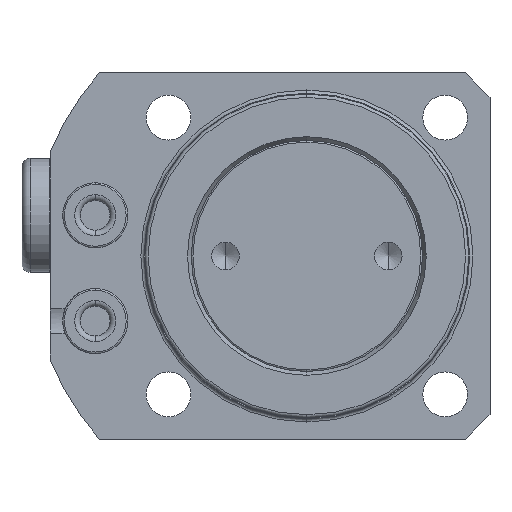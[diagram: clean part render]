
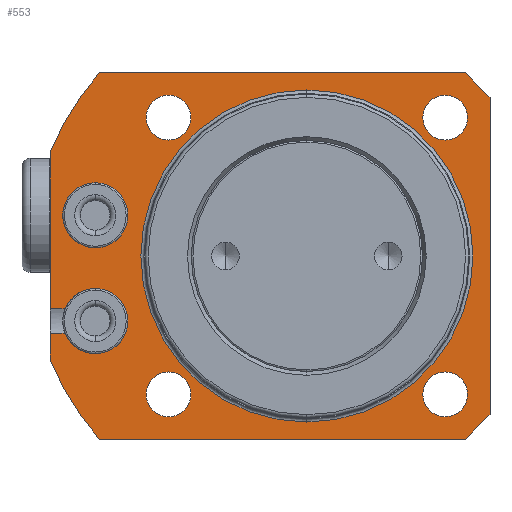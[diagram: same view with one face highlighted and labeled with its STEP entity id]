
A CAD part, front view. The second image highlights one B-rep face of the part: STEP entity #553.
In plain terms, the highlighted planar face has unit normal (0, -1, 0).
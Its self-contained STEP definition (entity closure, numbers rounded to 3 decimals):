
#267=PLANE('',#3749);
#324=FACE_BOUND('',#1053,.T.);
#325=FACE_BOUND('',#1054,.T.);
#326=FACE_BOUND('',#1055,.T.);
#327=FACE_BOUND('',#1056,.T.);
#328=FACE_BOUND('',#1057,.T.);
#329=FACE_BOUND('',#1058,.T.);
#330=FACE_BOUND('',#1059,.T.);
#553=ADVANCED_FACE('',(#324,#325,#326,#327,#328,#329,#330),#267,.T.);
#1053=EDGE_LOOP('',(#1751,#1752,#1753,#1754,#1755,#1756,#1757,#1758,#1759,
#1760,#1761,#1762,#1763,#1764));
#1054=EDGE_LOOP('',(#1765,#1766));
#1055=EDGE_LOOP('',(#1767,#1768));
#1056=EDGE_LOOP('',(#1769,#1770));
#1057=EDGE_LOOP('',(#1771,#1772));
#1058=EDGE_LOOP('',(#1773,#1774));
#1059=EDGE_LOOP('',(#1775,#1776));
#1335=LINE('',#5818,#1496);
#1336=LINE('',#5821,#1497);
#1337=LINE('',#5823,#1498);
#1338=LINE('',#5827,#1499);
#1339=LINE('',#5829,#1500);
#1340=LINE('',#5831,#1501);
#1341=LINE('',#5833,#1502);
#1342=LINE('',#5835,#1503);
#1343=LINE('',#5839,#1504);
#1496=VECTOR('',#4424,1.);
#1497=VECTOR('',#4427,1.);
#1498=VECTOR('',#4428,1.);
#1499=VECTOR('',#4431,1.);
#1500=VECTOR('',#4432,1.);
#1501=VECTOR('',#4433,1.);
#1502=VECTOR('',#4434,1.);
#1503=VECTOR('',#4435,1.);
#1504=VECTOR('',#4438,1.);
#1751=ORIENTED_EDGE('',*,*,#3008,.F.);
#1752=ORIENTED_EDGE('',*,*,#2883,.F.);
#1753=ORIENTED_EDGE('',*,*,#3009,.F.);
#1754=ORIENTED_EDGE('',*,*,#2885,.F.);
#1755=ORIENTED_EDGE('',*,*,#3010,.F.);
#1756=ORIENTED_EDGE('',*,*,#3011,.T.);
#1757=ORIENTED_EDGE('',*,*,#3012,.T.);
#1758=ORIENTED_EDGE('',*,*,#3013,.T.);
#1759=ORIENTED_EDGE('',*,*,#3014,.T.);
#1760=ORIENTED_EDGE('',*,*,#3015,.T.);
#1761=ORIENTED_EDGE('',*,*,#3016,.T.);
#1762=ORIENTED_EDGE('',*,*,#3017,.T.);
#1763=ORIENTED_EDGE('',*,*,#3018,.T.);
#1764=ORIENTED_EDGE('',*,*,#3019,.T.);
#1765=ORIENTED_EDGE('',*,*,#3020,.F.);
#1766=ORIENTED_EDGE('',*,*,#2879,.F.);
#1767=ORIENTED_EDGE('',*,*,#2907,.F.);
#1768=ORIENTED_EDGE('',*,*,#3021,.F.);
#1769=ORIENTED_EDGE('',*,*,#2915,.F.);
#1770=ORIENTED_EDGE('',*,*,#3022,.F.);
#1771=ORIENTED_EDGE('',*,*,#2923,.F.);
#1772=ORIENTED_EDGE('',*,*,#3023,.F.);
#1773=ORIENTED_EDGE('',*,*,#2931,.F.);
#1774=ORIENTED_EDGE('',*,*,#3024,.F.);
#1775=ORIENTED_EDGE('',*,*,#3025,.F.);
#1776=ORIENTED_EDGE('',*,*,#2985,.F.);
#2579=VERTEX_POINT('',#5382);
#2580=VERTEX_POINT('',#5384);
#2583=VERTEX_POINT('',#5391);
#2584=VERTEX_POINT('',#5393);
#2585=VERTEX_POINT('',#5398);
#2586=VERTEX_POINT('',#5400);
#2605=VERTEX_POINT('',#5517);
#2606=VERTEX_POINT('',#5518);
#2613=VERTEX_POINT('',#5544);
#2614=VERTEX_POINT('',#5545);
#2621=VERTEX_POINT('',#5571);
#2622=VERTEX_POINT('',#5572);
#2629=VERTEX_POINT('',#5598);
#2630=VERTEX_POINT('',#5599);
#2671=VERTEX_POINT('',#5737);
#2672=VERTEX_POINT('',#5739);
#2689=VERTEX_POINT('',#5819);
#2690=VERTEX_POINT('',#5822);
#2691=VERTEX_POINT('',#5824);
#2692=VERTEX_POINT('',#5826);
#2693=VERTEX_POINT('',#5828);
#2694=VERTEX_POINT('',#5830);
#2695=VERTEX_POINT('',#5832);
#2696=VERTEX_POINT('',#5834);
#2697=VERTEX_POINT('',#5836);
#2698=VERTEX_POINT('',#5838);
#2879=EDGE_CURVE('',#2579,#2580,#3356,.T.);
#2883=EDGE_CURVE('',#2583,#2584,#3358,.T.);
#2885=EDGE_CURVE('',#2585,#2586,#3359,.T.);
#2907=EDGE_CURVE('',#2605,#2606,#3365,.T.);
#2915=EDGE_CURVE('',#2613,#2614,#3368,.T.);
#2923=EDGE_CURVE('',#2621,#2622,#3371,.T.);
#2931=EDGE_CURVE('',#2629,#2630,#3374,.T.);
#2985=EDGE_CURVE('',#2671,#2672,#3407,.T.);
#3008=EDGE_CURVE('',#2584,#2689,#1335,.T.);
#3009=EDGE_CURVE('',#2586,#2583,#3417,.T.);
#3010=EDGE_CURVE('',#2690,#2585,#1336,.T.);
#3011=EDGE_CURVE('',#2690,#2691,#1337,.T.);
#3012=EDGE_CURVE('',#2691,#2692,#3418,.T.);
#3013=EDGE_CURVE('',#2692,#2693,#1338,.T.);
#3014=EDGE_CURVE('',#2693,#2694,#1339,.T.);
#3015=EDGE_CURVE('',#2694,#2695,#1340,.T.);
#3016=EDGE_CURVE('',#2695,#2696,#1341,.T.);
#3017=EDGE_CURVE('',#2696,#2697,#1342,.T.);
#3018=EDGE_CURVE('',#2697,#2698,#3419,.T.);
#3019=EDGE_CURVE('',#2698,#2689,#1343,.T.);
#3020=EDGE_CURVE('',#2580,#2579,#3420,.T.);
#3021=EDGE_CURVE('',#2606,#2605,#3421,.T.);
#3022=EDGE_CURVE('',#2614,#2613,#3422,.T.);
#3023=EDGE_CURVE('',#2622,#2621,#3423,.T.);
#3024=EDGE_CURVE('',#2630,#2629,#3424,.T.);
#3025=EDGE_CURVE('',#2672,#2671,#3425,.T.);
#3356=CIRCLE('',#3646,4.);
#3358=CIRCLE('',#3649,4.);
#3359=CIRCLE('',#3650,4.);
#3365=CIRCLE('',#3663,2.75);
#3368=CIRCLE('',#3668,2.75);
#3371=CIRCLE('',#3673,2.75);
#3374=CIRCLE('',#3678,2.75);
#3407=CIRCLE('',#3725,20.4);
#3417=CIRCLE('',#3740,4.);
#3418=CIRCLE('',#3741,34.);
#3419=CIRCLE('',#3742,34.);
#3420=CIRCLE('',#3743,4.);
#3421=CIRCLE('',#3744,2.75);
#3422=CIRCLE('',#3745,2.75);
#3423=CIRCLE('',#3746,2.75);
#3424=CIRCLE('',#3747,2.75);
#3425=CIRCLE('',#3748,20.4);
#3646=AXIS2_PLACEMENT_3D('',#5383,#4183,#4184);
#3649=AXIS2_PLACEMENT_3D('',#5392,#4191,#4192);
#3650=AXIS2_PLACEMENT_3D('',#5399,#4193,#4194);
#3663=AXIS2_PLACEMENT_3D('',#5516,#4232,#4233);
#3668=AXIS2_PLACEMENT_3D('',#5543,#4246,#4247);
#3673=AXIS2_PLACEMENT_3D('',#5570,#4260,#4261);
#3678=AXIS2_PLACEMENT_3D('',#5597,#4274,#4275);
#3725=AXIS2_PLACEMENT_3D('',#5738,#4388,#4389);
#3740=AXIS2_PLACEMENT_3D('',#5820,#4425,#4426);
#3741=AXIS2_PLACEMENT_3D('',#5825,#4429,#4430);
#3742=AXIS2_PLACEMENT_3D('',#5837,#4436,#4437);
#3743=AXIS2_PLACEMENT_3D('',#5840,#4439,#4440);
#3744=AXIS2_PLACEMENT_3D('',#5841,#4441,#4442);
#3745=AXIS2_PLACEMENT_3D('',#5842,#4443,#4444);
#3746=AXIS2_PLACEMENT_3D('',#5843,#4445,#4446);
#3747=AXIS2_PLACEMENT_3D('',#5844,#4447,#4448);
#3748=AXIS2_PLACEMENT_3D('',#5845,#4449,#4450);
#3749=AXIS2_PLACEMENT_3D('',#5846,#4451,#4452);
#4183=DIRECTION('',(0.,-1.,0.));
#4184=DIRECTION('',(0.,0.,-1.));
#4191=DIRECTION('',(0.,-1.,0.));
#4192=DIRECTION('',(0.,0.,-1.));
#4193=DIRECTION('',(0.,-1.,0.));
#4194=DIRECTION('',(0.,0.,-1.));
#4232=DIRECTION('',(0.,-1.,0.));
#4233=DIRECTION('',(0.,0.,-1.));
#4246=DIRECTION('',(0.,-1.,0.));
#4247=DIRECTION('',(0.,0.,-1.));
#4260=DIRECTION('',(0.,-1.,0.));
#4261=DIRECTION('',(0.,0.,-1.));
#4274=DIRECTION('',(0.,-1.,0.));
#4275=DIRECTION('',(0.,0.,-1.));
#4388=DIRECTION('',(0.,-1.,0.));
#4389=DIRECTION('',(0.,0.,-1.));
#4424=DIRECTION('',(-1.,0.,0.));
#4425=DIRECTION('',(0.,-1.,0.));
#4426=DIRECTION('',(0.,0.,-1.));
#4427=DIRECTION('',(1.,0.,0.));
#4428=DIRECTION('',(0.,0.,-1.));
#4429=DIRECTION('',(0.,-1.,0.));
#4430=DIRECTION('',(0.,0.,-1.));
#4431=DIRECTION('',(1.,0.,0.));
#4432=DIRECTION('',(0.707,0.,0.707));
#4433=DIRECTION('',(0.,0.,1.));
#4434=DIRECTION('',(-0.707,0.,0.707));
#4435=DIRECTION('',(-1.,0.,0.));
#4436=DIRECTION('',(0.,-1.,0.));
#4437=DIRECTION('',(0.,0.,-1.));
#4438=DIRECTION('',(0.,0.,-1.));
#4439=DIRECTION('',(0.,-1.,0.));
#4440=DIRECTION('',(0.,0.,-1.));
#4441=DIRECTION('',(0.,-1.,0.));
#4442=DIRECTION('',(0.,0.,-1.));
#4443=DIRECTION('',(0.,-1.,0.));
#4444=DIRECTION('',(0.,0.,-1.));
#4445=DIRECTION('',(0.,-1.,0.));
#4446=DIRECTION('',(0.,0.,-1.));
#4447=DIRECTION('',(0.,-1.,0.));
#4448=DIRECTION('',(0.,0.,-1.));
#4449=DIRECTION('',(0.,-1.,0.));
#4450=DIRECTION('',(0.,0.,-1.));
#4451=DIRECTION('',(0.,-1.,0.));
#4452=DIRECTION('',(0.,0.,1.));
#5382=CARTESIAN_POINT('',(-26.,31.886,9.));
#5383=CARTESIAN_POINT('',(-26.,31.886,5.));
#5384=CARTESIAN_POINT('',(-26.,31.886,1.));
#5391=CARTESIAN_POINT('',(-26.,31.886,-4.));
#5392=CARTESIAN_POINT('',(-26.,31.886,-8.));
#5393=CARTESIAN_POINT('',(-29.7,31.886,-6.48));
#5398=CARTESIAN_POINT('',(-29.7,31.886,-9.52));
#5399=CARTESIAN_POINT('',(-26.,31.886,-8.));
#5400=CARTESIAN_POINT('',(-26.,31.886,-12.));
#5516=CARTESIAN_POINT('',(-17.,31.886,-17.));
#5517=CARTESIAN_POINT('',(-17.,31.886,-14.25));
#5518=CARTESIAN_POINT('',(-17.,31.886,-19.75));
#5543=CARTESIAN_POINT('',(17.,31.886,-17.));
#5544=CARTESIAN_POINT('',(17.,31.886,-14.25));
#5545=CARTESIAN_POINT('',(17.,31.886,-19.75));
#5570=CARTESIAN_POINT('',(17.,31.886,17.));
#5571=CARTESIAN_POINT('',(17.,31.886,19.75));
#5572=CARTESIAN_POINT('',(17.,31.886,14.25));
#5597=CARTESIAN_POINT('',(-17.,31.886,17.));
#5598=CARTESIAN_POINT('',(-17.,31.886,19.75));
#5599=CARTESIAN_POINT('',(-17.,31.886,14.25));
#5737=CARTESIAN_POINT('',(0.,31.886,20.4));
#5738=CARTESIAN_POINT('',(0.,31.886,0.));
#5739=CARTESIAN_POINT('',(0.,31.886,-20.4));
#5818=CARTESIAN_POINT('',(-26.5,31.886,-6.48));
#5819=CARTESIAN_POINT('',(-31.5,31.886,-6.48));
#5820=CARTESIAN_POINT('',(-26.,31.886,-8.));
#5821=CARTESIAN_POINT('',(-26.5,31.886,-9.52));
#5822=CARTESIAN_POINT('',(-31.5,31.886,-9.52));
#5823=CARTESIAN_POINT('',(-31.5,31.886,0.));
#5824=CARTESIAN_POINT('',(-31.5,31.886,-12.796));
#5825=CARTESIAN_POINT('',(0.,31.886,0.));
#5826=CARTESIAN_POINT('',(-25.49,31.886,-22.5));
#5827=CARTESIAN_POINT('',(20.4,31.886,-22.5));
#5828=CARTESIAN_POINT('',(19.5,31.886,-22.5));
#5829=CARTESIAN_POINT('',(31.2,31.886,-10.8));
#5830=CARTESIAN_POINT('',(22.5,31.886,-19.5));
#5831=CARTESIAN_POINT('',(22.5,31.886,0.));
#5832=CARTESIAN_POINT('',(22.5,31.886,19.5));
#5833=CARTESIAN_POINT('',(31.2,31.886,10.8));
#5834=CARTESIAN_POINT('',(19.5,31.886,22.5));
#5835=CARTESIAN_POINT('',(20.4,31.886,22.5));
#5836=CARTESIAN_POINT('',(-25.49,31.886,22.5));
#5837=CARTESIAN_POINT('',(0.,31.886,0.));
#5838=CARTESIAN_POINT('',(-31.5,31.886,12.796));
#5839=CARTESIAN_POINT('',(-31.5,31.886,0.));
#5840=CARTESIAN_POINT('',(-26.,31.886,5.));
#5841=CARTESIAN_POINT('',(-17.,31.886,-17.));
#5842=CARTESIAN_POINT('',(17.,31.886,-17.));
#5843=CARTESIAN_POINT('',(17.,31.886,17.));
#5844=CARTESIAN_POINT('',(-17.,31.886,17.));
#5845=CARTESIAN_POINT('',(0.,31.886,0.));
#5846=CARTESIAN_POINT('',(20.4,31.886,0.));
